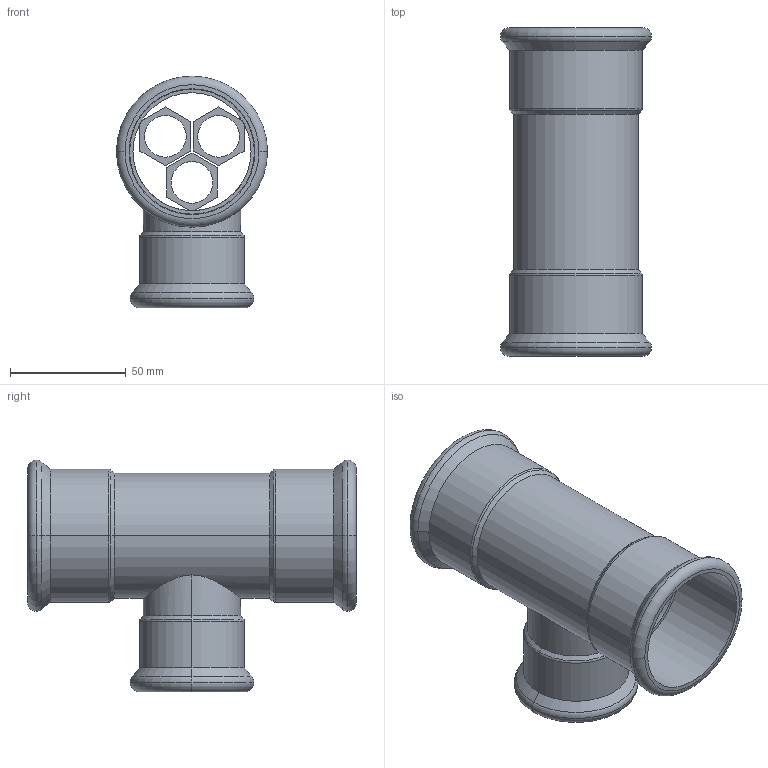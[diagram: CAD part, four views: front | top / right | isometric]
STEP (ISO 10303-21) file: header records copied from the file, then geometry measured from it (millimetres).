
FILE_DESCRIPTION(('OneSpaceDesigner STEP Export'),'2;1');
FILE_NAME('R2715 54x42x54.stp','2010-06-10T 9:15:20',(''),(''),'OneSpace Designer STEP processor for AP214 (Solid Model)','OneSpace Modeling 15.00A 14-Mar-2007 (C) CoCreate Software GmbH','');
FILE_SCHEMA(('AUTOMOTIVE_DESIGN { 1 0 10303 214 1 1 1 1 }'));
Length unit declared in the file: millimetre
Products named in the file (2): R2715_54x42x54
Assembly tree (1 placements, depth 2):
  R2715_54x42x54
    R2715_54x42x54
Bounding box: 65.3 x 142 x 100.15 mm (x, y, z)
Volume: 63451.6 mm3; surface area: 69734.4 mm2
Topology: 1 solids, 1 shells, 174 faces, 432 edges, 277 vertices
Faces by surface type: plane 90, cylinder 54, torus 18, cone 12
Entity records: 5890 total; most frequent: CARTESIAN_POINT 2065, ORIENTED_EDGE 864, DIRECTION 671, EDGE_CURVE 432, VERTEX_POINT 277, VECTOR 263, LINE 263, EDGE_LOOP 211
